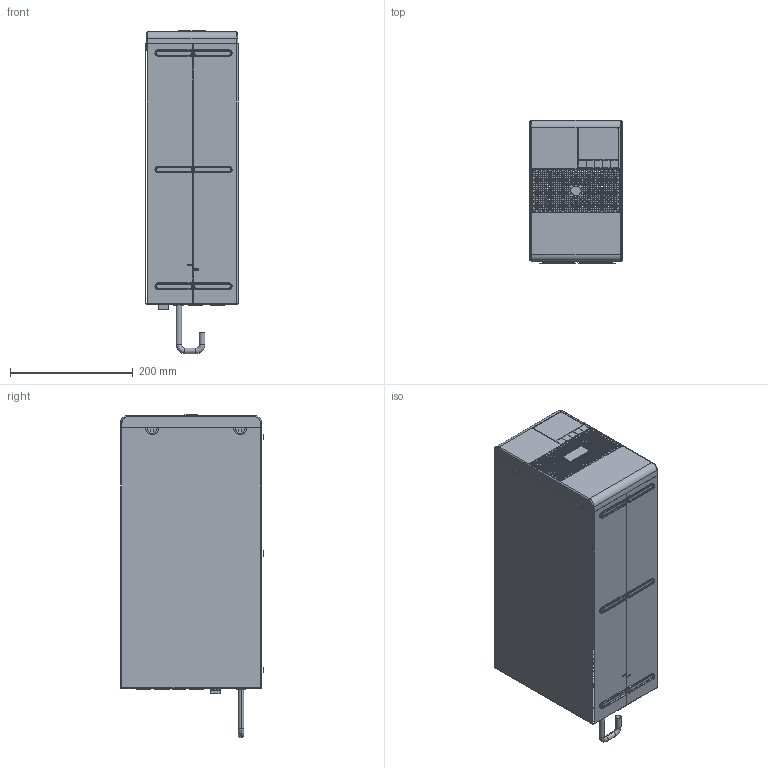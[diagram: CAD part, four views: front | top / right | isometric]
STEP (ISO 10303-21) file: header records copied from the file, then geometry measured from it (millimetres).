
FILE_DESCRIPTION((''),'2;1');
FILE_NAME('9210-6148-XX_US1500','2013-03-05T',('E2018535'),(''),'PRO/ENGINEER BY PARAMETRIC TECHNOLOGY CORPORATION, 2011220','PRO/ENGINEER BY PARAMETRIC TECHNOLOGY CORPORATION, 2011220','');
FILE_SCHEMA(('AUTOMOTIVE_DESIGN_CC2 { 1 2 10303 214 -1 1 5 2 }'));
Length unit declared in the file: millimetre
Products named in the file (1): 9210-6148-XX_US1500
Bounding box: 150 x 233 x 526.9 mm (x, y, z)
Surface area: 402904.5 mm2 (no closed solid volume)
Topology: 0 solids, 98 shells, 215 faces, 2301 edges, 2177 vertices
Faces by surface type: plane 134, cylinder 27, torus 18, bspline 18, cone 12, sphere 6
Entity records: 25970 total; most frequent: CARTESIAN_POINT 7723, DIRECTION 3484, ORIENTED_EDGE 2460, EDGE_CURVE 2301, VERTEX_POINT 2177, AXIS2_PLACEMENT_3D 1270, CIRCLE 1073, VECTOR 944
